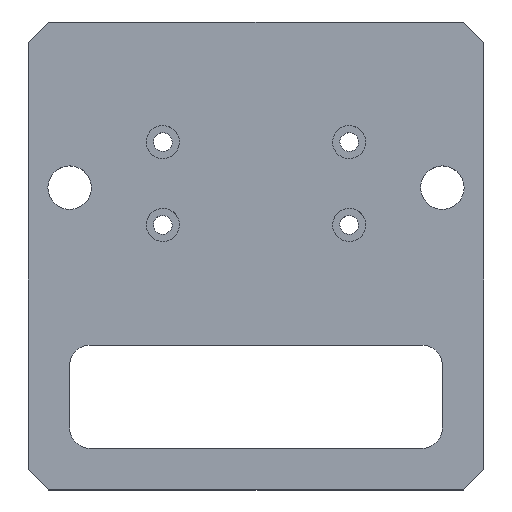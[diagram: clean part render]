
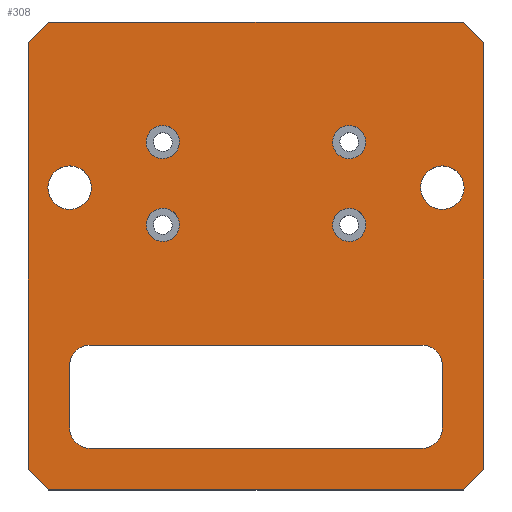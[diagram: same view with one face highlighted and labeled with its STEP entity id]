
A CAD part, top view. The second image highlights one B-rep face of the part: STEP entity #308.
In plain terms, the highlighted planar face has unit normal (0, 0, 1).
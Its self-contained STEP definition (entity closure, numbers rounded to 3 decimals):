
#62=AXIS2_PLACEMENT_3D('Circle Axis2P3D',#60,#61,$) ;
#75=AXIS2_PLACEMENT_3D('Plane Axis2P3D',#72,#73,#74) ;
#145=AXIS2_PLACEMENT_3D('Circle Axis2P3D',#143,#144,$) ;
#154=AXIS2_PLACEMENT_3D('Circle Axis2P3D',#152,#153,$) ;
#163=AXIS2_PLACEMENT_3D('Circle Axis2P3D',#161,#162,$) ;
#172=AXIS2_PLACEMENT_3D('Circle Axis2P3D',#170,#171,$) ;
#188=AXIS2_PLACEMENT_3D('Circle Axis2P3D',#186,#187,$) ;
#202=AXIS2_PLACEMENT_3D('Circle Axis2P3D',#200,#201,$) ;
#216=AXIS2_PLACEMENT_3D('Circle Axis2P3D',#214,#215,$) ;
#238=AXIS2_PLACEMENT_3D('Circle Axis2P3D',#236,#237,$) ;
#247=AXIS2_PLACEMENT_3D('Circle Axis2P3D',#245,#246,$) ;
#256=AXIS2_PLACEMENT_3D('Circle Axis2P3D',#254,#255,$) ;
#265=AXIS2_PLACEMENT_3D('Circle Axis2P3D',#263,#264,$) ;
#274=AXIS2_PLACEMENT_3D('Circle Axis2P3D',#272,#273,$) ;
#283=AXIS2_PLACEMENT_3D('Circle Axis2P3D',#281,#282,$) ;
#292=AXIS2_PLACEMENT_3D('Circle Axis2P3D',#290,#291,$) ;
#301=AXIS2_PLACEMENT_3D('Circle Axis2P3D',#299,#300,$) ;
#43=CARTESIAN_POINT('Vertex',(5.393,-37.483,8.)) ;
#57=CARTESIAN_POINT('Vertex',(14.607,-42.517,8.)) ;
#60=CARTESIAN_POINT('Axis2P3D Location',(10.,-40.,8.)) ;
#72=CARTESIAN_POINT('Axis2P3D Location',(0.,0.,8.)) ;
#77=CARTESIAN_POINT('Line Origine',(55.,0.,8.)) ;
#81=CARTESIAN_POINT('Vertex',(105.,0.,8.)) ;
#83=CARTESIAN_POINT('Vertex',(5.,0.,8.)) ;
#86=CARTESIAN_POINT('Line Origine',(2.5,-2.5,8.)) ;
#90=CARTESIAN_POINT('Vertex',(0.,-5.,8.)) ;
#93=CARTESIAN_POINT('Line Origine',(0.,-56.5,8.)) ;
#97=CARTESIAN_POINT('Vertex',(0.,-108.,8.)) ;
#100=CARTESIAN_POINT('Line Origine',(2.5,-110.5,8.)) ;
#104=CARTESIAN_POINT('Vertex',(5.,-113.,8.)) ;
#107=CARTESIAN_POINT('Line Origine',(55.,-113.,8.)) ;
#111=CARTESIAN_POINT('Vertex',(105.,-113.,8.)) ;
#114=CARTESIAN_POINT('Line Origine',(107.5,-110.5,8.)) ;
#118=CARTESIAN_POINT('Vertex',(110.,-108.,8.)) ;
#121=CARTESIAN_POINT('Line Origine',(110.,-56.5,8.)) ;
#125=CARTESIAN_POINT('Vertex',(110.,-5.,8.)) ;
#128=CARTESIAN_POINT('Line Origine',(107.5,-2.5,8.)) ;
#143=CARTESIAN_POINT('Axis2P3D Location',(100.,-40.,8.)) ;
#147=CARTESIAN_POINT('Vertex',(104.607,-42.517,8.)) ;
#149=CARTESIAN_POINT('Vertex',(95.393,-37.483,8.)) ;
#152=CARTESIAN_POINT('Axis2P3D Location',(100.,-40.,8.)) ;
#161=CARTESIAN_POINT('Axis2P3D Location',(10.,-40.,8.)) ;
#170=CARTESIAN_POINT('Axis2P3D Location',(95.,-98.,8.)) ;
#174=CARTESIAN_POINT('Vertex',(100.,-98.,8.)) ;
#176=CARTESIAN_POINT('Vertex',(95.,-103.,8.)) ;
#179=CARTESIAN_POINT('Line Origine',(55.,-103.,8.)) ;
#183=CARTESIAN_POINT('Vertex',(15.,-103.,8.)) ;
#186=CARTESIAN_POINT('Axis2P3D Location',(15.,-98.,8.)) ;
#190=CARTESIAN_POINT('Vertex',(10.,-98.,8.)) ;
#193=CARTESIAN_POINT('Line Origine',(10.,-90.5,8.)) ;
#197=CARTESIAN_POINT('Vertex',(10.,-83.,8.)) ;
#200=CARTESIAN_POINT('Axis2P3D Location',(15.,-83.,8.)) ;
#204=CARTESIAN_POINT('Vertex',(15.,-78.,8.)) ;
#207=CARTESIAN_POINT('Line Origine',(55.,-78.,8.)) ;
#211=CARTESIAN_POINT('Vertex',(95.,-78.,8.)) ;
#214=CARTESIAN_POINT('Axis2P3D Location',(95.,-83.,8.)) ;
#218=CARTESIAN_POINT('Vertex',(100.,-83.,8.)) ;
#221=CARTESIAN_POINT('Line Origine',(100.,-90.5,8.)) ;
#236=CARTESIAN_POINT('Axis2P3D Location',(32.5,-29.,8.)) ;
#240=CARTESIAN_POINT('Vertex',(28.99,-27.082,8.)) ;
#242=CARTESIAN_POINT('Vertex',(36.01,-30.918,8.)) ;
#245=CARTESIAN_POINT('Axis2P3D Location',(32.5,-29.,8.)) ;
#254=CARTESIAN_POINT('Axis2P3D Location',(77.5,-29.,8.)) ;
#258=CARTESIAN_POINT('Vertex',(73.99,-27.082,8.)) ;
#260=CARTESIAN_POINT('Vertex',(81.01,-30.918,8.)) ;
#263=CARTESIAN_POINT('Axis2P3D Location',(77.5,-29.,8.)) ;
#272=CARTESIAN_POINT('Axis2P3D Location',(77.5,-49.,8.)) ;
#276=CARTESIAN_POINT('Vertex',(81.01,-50.918,8.)) ;
#278=CARTESIAN_POINT('Vertex',(73.99,-47.082,8.)) ;
#281=CARTESIAN_POINT('Axis2P3D Location',(77.5,-49.,8.)) ;
#290=CARTESIAN_POINT('Axis2P3D Location',(32.5,-49.,8.)) ;
#294=CARTESIAN_POINT('Vertex',(36.01,-50.918,8.)) ;
#296=CARTESIAN_POINT('Vertex',(28.99,-47.082,8.)) ;
#299=CARTESIAN_POINT('Axis2P3D Location',(32.5,-49.,8.)) ;
#61=DIRECTION('Axis2P3D Direction',(0.,-0.,-1.)) ;
#73=DIRECTION('Axis2P3D Direction',(0.,0.,1.)) ;
#74=DIRECTION('Axis2P3D XDirection',(1.,0.,0.)) ;
#78=DIRECTION('Vector Direction',(1.,0.,0.)) ;
#87=DIRECTION('Vector Direction',(0.707,0.707,0.)) ;
#94=DIRECTION('Vector Direction',(0.,-1.,0.)) ;
#101=DIRECTION('Vector Direction',(0.707,-0.707,0.)) ;
#108=DIRECTION('Vector Direction',(-1.,0.,0.)) ;
#115=DIRECTION('Vector Direction',(-0.707,-0.707,0.)) ;
#122=DIRECTION('Vector Direction',(0.,1.,0.)) ;
#129=DIRECTION('Vector Direction',(0.707,-0.707,0.)) ;
#144=DIRECTION('Axis2P3D Direction',(0.,0.,1.)) ;
#153=DIRECTION('Axis2P3D Direction',(0.,0.,1.)) ;
#162=DIRECTION('Axis2P3D Direction',(0.,0.,1.)) ;
#171=DIRECTION('Axis2P3D Direction',(0.,0.,1.)) ;
#180=DIRECTION('Vector Direction',(-1.,0.,0.)) ;
#187=DIRECTION('Axis2P3D Direction',(0.,0.,1.)) ;
#194=DIRECTION('Vector Direction',(0.,-1.,0.)) ;
#201=DIRECTION('Axis2P3D Direction',(0.,0.,1.)) ;
#208=DIRECTION('Vector Direction',(-1.,0.,0.)) ;
#215=DIRECTION('Axis2P3D Direction',(0.,0.,1.)) ;
#222=DIRECTION('Vector Direction',(0.,1.,0.)) ;
#237=DIRECTION('Axis2P3D Direction',(0.,0.,1.)) ;
#246=DIRECTION('Axis2P3D Direction',(0.,0.,1.)) ;
#255=DIRECTION('Axis2P3D Direction',(0.,0.,1.)) ;
#264=DIRECTION('Axis2P3D Direction',(0.,0.,1.)) ;
#273=DIRECTION('Axis2P3D Direction',(0.,0.,1.)) ;
#282=DIRECTION('Axis2P3D Direction',(0.,0.,1.)) ;
#291=DIRECTION('Axis2P3D Direction',(0.,0.,1.)) ;
#300=DIRECTION('Axis2P3D Direction',(0.,0.,1.)) ;
#79=VECTOR('Line Direction',#78,1.) ;
#88=VECTOR('Line Direction',#87,1.) ;
#95=VECTOR('Line Direction',#94,1.) ;
#102=VECTOR('Line Direction',#101,1.) ;
#109=VECTOR('Line Direction',#108,1.) ;
#116=VECTOR('Line Direction',#115,1.) ;
#123=VECTOR('Line Direction',#122,1.) ;
#130=VECTOR('Line Direction',#129,1.) ;
#181=VECTOR('Line Direction',#180,1.) ;
#195=VECTOR('Line Direction',#194,1.) ;
#209=VECTOR('Line Direction',#208,1.) ;
#223=VECTOR('Line Direction',#222,1.) ;
#134=ORIENTED_EDGE('',*,*,#85,.T.) ;
#135=ORIENTED_EDGE('',*,*,#92,.F.) ;
#136=ORIENTED_EDGE('',*,*,#99,.T.) ;
#137=ORIENTED_EDGE('',*,*,#106,.F.) ;
#138=ORIENTED_EDGE('',*,*,#113,.T.) ;
#139=ORIENTED_EDGE('',*,*,#120,.F.) ;
#140=ORIENTED_EDGE('',*,*,#127,.T.) ;
#141=ORIENTED_EDGE('',*,*,#132,.F.) ;
#158=ORIENTED_EDGE('',*,*,#151,.F.) ;
#159=ORIENTED_EDGE('',*,*,#156,.F.) ;
#167=ORIENTED_EDGE('',*,*,#165,.F.) ;
#168=ORIENTED_EDGE('',*,*,#64,.F.) ;
#227=ORIENTED_EDGE('',*,*,#178,.T.) ;
#228=ORIENTED_EDGE('',*,*,#185,.T.) ;
#229=ORIENTED_EDGE('',*,*,#192,.T.) ;
#230=ORIENTED_EDGE('',*,*,#199,.T.) ;
#231=ORIENTED_EDGE('',*,*,#206,.T.) ;
#232=ORIENTED_EDGE('',*,*,#213,.T.) ;
#233=ORIENTED_EDGE('',*,*,#220,.T.) ;
#234=ORIENTED_EDGE('',*,*,#225,.T.) ;
#251=ORIENTED_EDGE('',*,*,#244,.F.) ;
#252=ORIENTED_EDGE('',*,*,#249,.F.) ;
#269=ORIENTED_EDGE('',*,*,#262,.F.) ;
#270=ORIENTED_EDGE('',*,*,#267,.F.) ;
#287=ORIENTED_EDGE('',*,*,#280,.F.) ;
#288=ORIENTED_EDGE('',*,*,#285,.F.) ;
#305=ORIENTED_EDGE('',*,*,#298,.F.) ;
#306=ORIENTED_EDGE('',*,*,#303,.F.) ;
#160=FACE_BOUND('',#157,.T.) ;
#169=FACE_BOUND('',#166,.T.) ;
#235=FACE_BOUND('',#226,.T.) ;
#253=FACE_BOUND('',#250,.T.) ;
#271=FACE_BOUND('',#268,.T.) ;
#289=FACE_BOUND('',#286,.T.) ;
#307=FACE_BOUND('',#304,.T.) ;
#308=ADVANCED_FACE('\X2\96F64EF651E04F554F53\X0\',(#142,#160,#169,#235,#253,#271,#289,#307),#76,.T.) ;
#63=CIRCLE('generated circle',#62,5.25) ;
#146=CIRCLE('generated circle',#145,5.25) ;
#155=CIRCLE('generated circle',#154,5.25) ;
#164=CIRCLE('generated circle',#163,5.25) ;
#173=CIRCLE('generated circle',#172,5.) ;
#189=CIRCLE('generated circle',#188,5.) ;
#203=CIRCLE('generated circle',#202,5.) ;
#217=CIRCLE('generated circle',#216,5.) ;
#239=CIRCLE('generated circle',#238,4.) ;
#248=CIRCLE('generated circle',#247,4.) ;
#257=CIRCLE('generated circle',#256,4.) ;
#266=CIRCLE('generated circle',#265,4.) ;
#275=CIRCLE('generated circle',#274,4.) ;
#284=CIRCLE('generated circle',#283,4.) ;
#293=CIRCLE('generated circle',#292,4.) ;
#302=CIRCLE('generated circle',#301,4.) ;
#64=EDGE_CURVE('',#58,#44,#63,.F.) ;
#85=EDGE_CURVE('',#82,#84,#80,.F.) ;
#92=EDGE_CURVE('',#91,#84,#89,.T.) ;
#99=EDGE_CURVE('',#91,#98,#96,.T.) ;
#106=EDGE_CURVE('',#105,#98,#103,.F.) ;
#113=EDGE_CURVE('',#105,#112,#110,.F.) ;
#120=EDGE_CURVE('',#119,#112,#117,.T.) ;
#127=EDGE_CURVE('',#119,#126,#124,.T.) ;
#132=EDGE_CURVE('',#82,#126,#131,.T.) ;
#151=EDGE_CURVE('',#148,#150,#146,.T.) ;
#156=EDGE_CURVE('',#150,#148,#155,.T.) ;
#165=EDGE_CURVE('',#44,#58,#164,.T.) ;
#178=EDGE_CURVE('',#175,#177,#173,.F.) ;
#185=EDGE_CURVE('',#177,#184,#182,.T.) ;
#192=EDGE_CURVE('',#184,#191,#189,.F.) ;
#199=EDGE_CURVE('',#191,#198,#196,.F.) ;
#206=EDGE_CURVE('',#198,#205,#203,.F.) ;
#213=EDGE_CURVE('',#205,#212,#210,.F.) ;
#220=EDGE_CURVE('',#212,#219,#217,.F.) ;
#225=EDGE_CURVE('',#219,#175,#224,.F.) ;
#244=EDGE_CURVE('',#241,#243,#239,.T.) ;
#249=EDGE_CURVE('',#243,#241,#248,.T.) ;
#262=EDGE_CURVE('',#259,#261,#257,.T.) ;
#267=EDGE_CURVE('',#261,#259,#266,.T.) ;
#280=EDGE_CURVE('',#277,#279,#275,.T.) ;
#285=EDGE_CURVE('',#279,#277,#284,.T.) ;
#298=EDGE_CURVE('',#295,#297,#293,.T.) ;
#303=EDGE_CURVE('',#297,#295,#302,.T.) ;
#133=EDGE_LOOP('',(#134,#135,#136,#137,#138,#139,#140,#141)) ;
#157=EDGE_LOOP('',(#158,#159)) ;
#166=EDGE_LOOP('',(#167,#168)) ;
#226=EDGE_LOOP('',(#227,#228,#229,#230,#231,#232,#233,#234)) ;
#250=EDGE_LOOP('',(#251,#252)) ;
#268=EDGE_LOOP('',(#269,#270)) ;
#286=EDGE_LOOP('',(#287,#288)) ;
#304=EDGE_LOOP('',(#305,#306)) ;
#142=FACE_OUTER_BOUND('',#133,.T.) ;
#80=LINE('Line',#77,#79) ;
#89=LINE('Line',#86,#88) ;
#96=LINE('Line',#93,#95) ;
#103=LINE('Line',#100,#102) ;
#110=LINE('Line',#107,#109) ;
#117=LINE('Line',#114,#116) ;
#124=LINE('Line',#121,#123) ;
#131=LINE('Line',#128,#130) ;
#182=LINE('Line',#179,#181) ;
#196=LINE('Line',#193,#195) ;
#210=LINE('Line',#207,#209) ;
#224=LINE('Line',#221,#223) ;
#76=PLANE('',#75) ;
#44=VERTEX_POINT('',#43) ;
#58=VERTEX_POINT('',#57) ;
#82=VERTEX_POINT('',#81) ;
#84=VERTEX_POINT('',#83) ;
#91=VERTEX_POINT('',#90) ;
#98=VERTEX_POINT('',#97) ;
#105=VERTEX_POINT('',#104) ;
#112=VERTEX_POINT('',#111) ;
#119=VERTEX_POINT('',#118) ;
#126=VERTEX_POINT('',#125) ;
#148=VERTEX_POINT('',#147) ;
#150=VERTEX_POINT('',#149) ;
#175=VERTEX_POINT('',#174) ;
#177=VERTEX_POINT('',#176) ;
#184=VERTEX_POINT('',#183) ;
#191=VERTEX_POINT('',#190) ;
#198=VERTEX_POINT('',#197) ;
#205=VERTEX_POINT('',#204) ;
#212=VERTEX_POINT('',#211) ;
#219=VERTEX_POINT('',#218) ;
#241=VERTEX_POINT('',#240) ;
#243=VERTEX_POINT('',#242) ;
#259=VERTEX_POINT('',#258) ;
#261=VERTEX_POINT('',#260) ;
#277=VERTEX_POINT('',#276) ;
#279=VERTEX_POINT('',#278) ;
#295=VERTEX_POINT('',#294) ;
#297=VERTEX_POINT('',#296) ;
